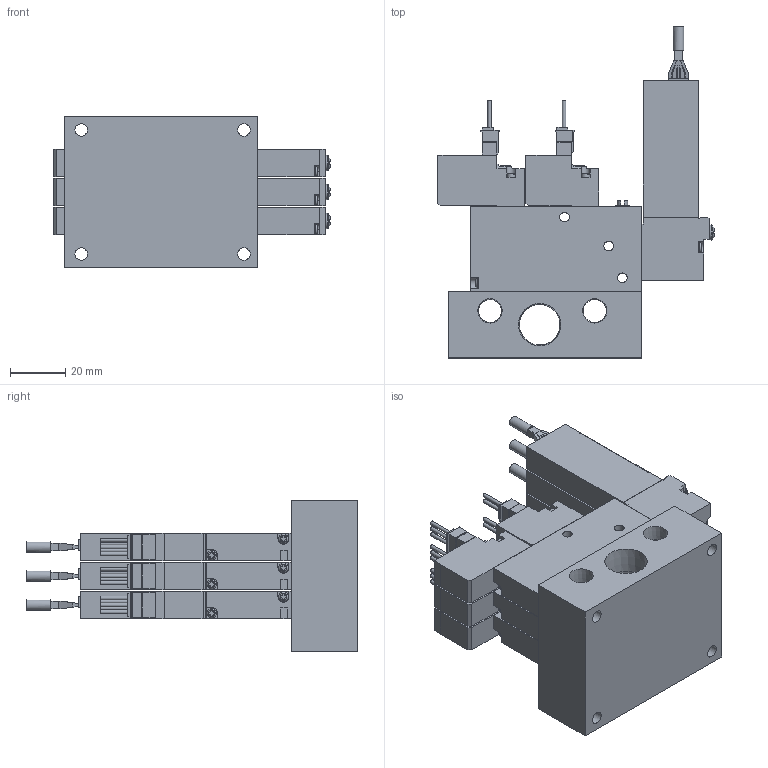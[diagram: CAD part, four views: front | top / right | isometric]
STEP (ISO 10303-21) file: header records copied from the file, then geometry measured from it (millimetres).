
FILE_DESCRIPTION(('STEP AP203'),'1');
FILE_NAME('BMPV42MV9.V9P5W303.stp','2025-04-30T01:29:15',(' '),(' '),'Spatial InterOp 3D',' ',' ');
FILE_SCHEMA(('CONFIG_CONTROL_DESIGN'));
Length unit declared in the file: millimetre
Products named in the file (6): BMPV42MV9.V9P5W303; VACUUM VALVE FUNCTION MPV42-W; VACUUM SENSOR MPV42-V9; VACUUM VALVE FUNCTION MPV42-A; UNIT-MPV42; MPV42-M30R-1
Assembly tree (13 placements, depth 2):
  BMPV42MV9.V9P5W303
    VACUUM VALVE FUNCTION MPV42-W  x3
    VACUUM SENSOR MPV42-V9  x3
    VACUUM VALVE FUNCTION MPV42-A  x3
    UNIT-MPV42  x3
    MPV42-M30R-1
Bounding box: 100.35 x 120.3 x 55 mm (x, y, z)
Volume: 208047.6 mm3; surface area: 69582.9 mm2
Topology: 13 solids, 13 shells, 1168 faces, 3160 edges, 2093 vertices
Faces by surface type: plane 912, cylinder 208, cone 18, sphere 15, torus 15
Full cylindrical faces by diameter (mm): 1.4 x15, 1.8 x3, 2.2 x6, 3 x12, 3.5 x33, 3.8 x3, 4.134 x6, 4.5 x4, 5 x3, 5.5 x3, 8.441 x2, 14.744 x1
Entity records: 12722 total; most frequent: CARTESIAN_POINT 2417, DIRECTION 2016, ORIENTED_EDGE 2016, EDGE_CURVE 1008, LINE 788, VECTOR 788, VERTEX_POINT 697, AXIS2_PLACEMENT_3D 614
